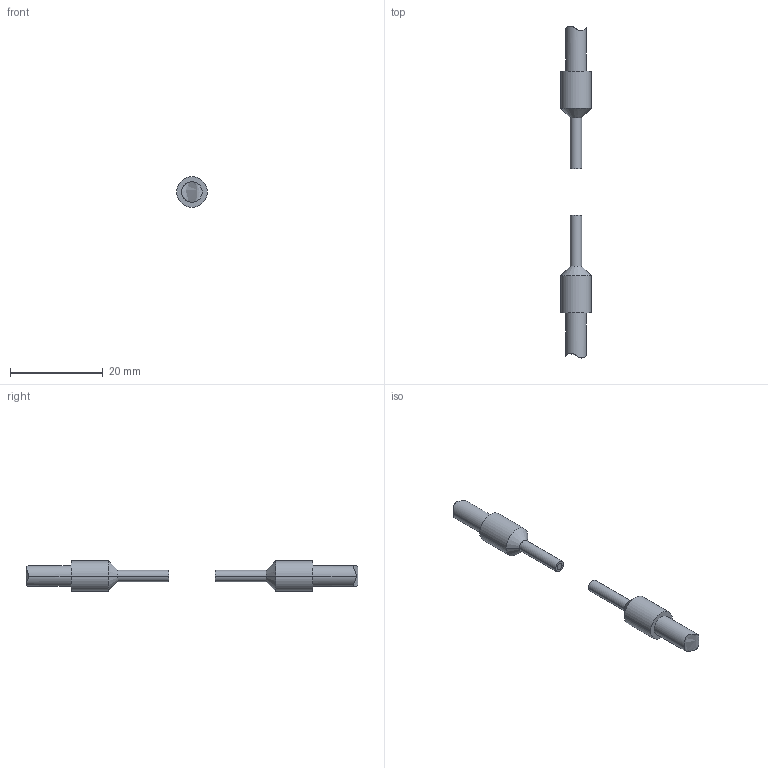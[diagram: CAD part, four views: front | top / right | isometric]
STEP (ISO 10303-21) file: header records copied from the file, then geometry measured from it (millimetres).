
FILE_DESCRIPTION((''),'2;1');
FILE_NAME('0000366116_PRT','2021-03-04T13:12:28',('pdmservice'),(''),'CREO PARAMETRIC BY PTC INC, 2018420','CREO PARAMETRIC BY PTC INC, 2018420','');
FILE_SCHEMA(('AUTOMOTIVE_DESIGN { 1 0 10303 214 1 1 1 1 }'));
Length unit declared in the file: millimetre
Products named in the file (1): 0000366116_PRT
Bounding box: 6.6 x 71.45 x 6.6 mm (x, y, z)
Volume: 1003.8 mm3; surface area: 923.3 mm2
Topology: 2 solids, 2 shells, 28 faces, 52 edges, 32 vertices
Faces by surface type: cylinder 16, plane 6, cone 4, extrusion 2
Entity records: 2018 total; most frequent: CARTESIAN_POINT 295, DIRECTION 130, PROPERTY_DEFINITION 122, REPRESENTATION 121, PROPERTY_DEFINITION_REPRESENTATION 121, DESCRIPTIVE_REPRESENTATION_ITEM 109, ORIENTED_EDGE 104, GENERAL_PROPERTY 104
